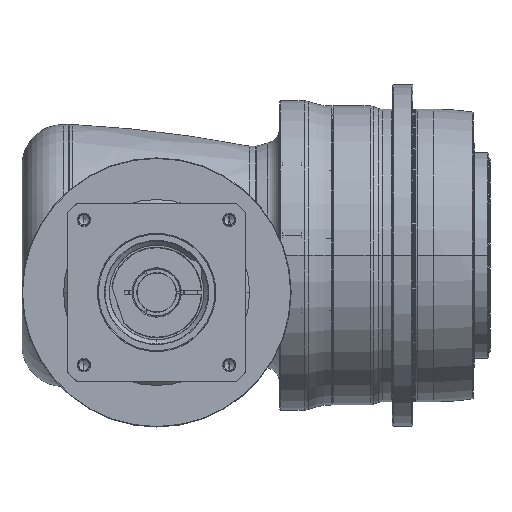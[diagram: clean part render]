
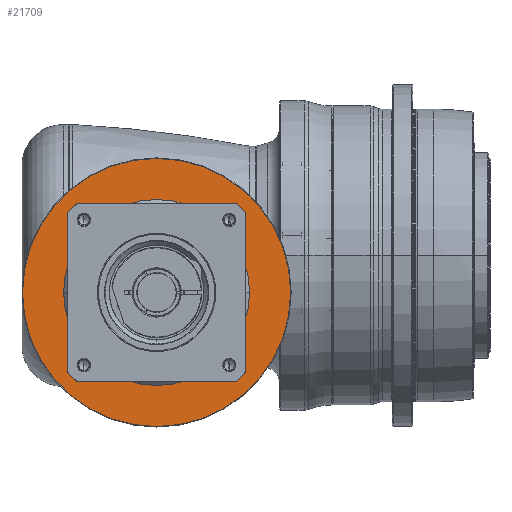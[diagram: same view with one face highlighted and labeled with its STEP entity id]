
A CAD part, front view. The second image highlights one B-rep face of the part: STEP entity #21709.
In plain terms, the highlighted planar face has unit normal (0, -1, 0) as drawn and (1, 0, 0) by its records, which use the part's own axes.
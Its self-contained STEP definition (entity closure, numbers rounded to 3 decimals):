
#21236=CARTESIAN_POINT('',(-3.5,0.,
0.));
#21237=DIRECTION('',(-1.,0.,0.));
#21238=DIRECTION('',(0.,1.,0.));
#21239=AXIS2_PLACEMENT_3D('',#21236,#21237,#21238);
#21241=CARTESIAN_POINT('',(-3.5,0.,
0.));
#21242=DIRECTION('',(-1.,0.,0.));
#21243=DIRECTION('',(0.,-1.,0.));
#21244=AXIS2_PLACEMENT_3D('',#21241,#21242,#21243);
#21246=CARTESIAN_POINT('',(-3.5,0.,0.));
#21247=DIRECTION('',(-1.,0.,0.));
#21248=DIRECTION('',(0.,-1.,0.));
#21249=AXIS2_PLACEMENT_3D('',#21246,#21247,#21248);
#21251=CARTESIAN_POINT('',(-3.5,0.,0.));
#21252=DIRECTION('',(-1.,0.,0.));
#21253=DIRECTION('',(0.,1.,0.));
#21254=AXIS2_PLACEMENT_3D('',#21251,#21252,#21253);
#21280=CARTESIAN_POINT('',(-3.5,-130.5,0.));
#21281=CARTESIAN_POINT('',(-3.5,130.5,0.));
#21282=VERTEX_POINT('',#21280);
#21283=VERTEX_POINT('',#21281);
#21328=CARTESIAN_POINT('',(-3.5,90.5,
0.));
#21329=CARTESIAN_POINT('',(-3.5,-90.5,
0.));
#21330=VERTEX_POINT('',#21328);
#21331=VERTEX_POINT('',#21329);
#21694=CARTESIAN_POINT('',(-3.5,0.,0.));
#21695=DIRECTION('',(1.,0.,0.));
#21696=DIRECTION('',(0.,-1.,0.));
#21697=AXIS2_PLACEMENT_3D('',#21694,#21695,#21696);
#21698=PLANE('',#21697);
#21699=ORIENTED_EDGE('',*,*,#21635,.T.);
#21700=ORIENTED_EDGE('',*,*,#21650,.T.);
#21701=EDGE_LOOP('',(#21699,#21700));
#21702=FACE_OUTER_BOUND('',#21701,.F.);
#21704=ORIENTED_EDGE('',*,*,#21703,.F.);
#21706=ORIENTED_EDGE('',*,*,#21705,.F.);
#21707=EDGE_LOOP('',(#21704,#21706));
#21708=FACE_BOUND('',#21707,.F.);
#21709=ADVANCED_FACE('',(#21702,#21708),#21698,.T.);
#21240=CIRCLE('',#21239,90.5);
#21245=CIRCLE('',#21244,90.5);
#21250=CIRCLE('',#21249,130.5);
#21255=CIRCLE('',#21254,130.5);
#21635=EDGE_CURVE('',#21282,#21283,#21250,.T.);
#21650=EDGE_CURVE('',#21283,#21282,#21255,.T.);
#21703=EDGE_CURVE('',#21330,#21331,#21240,.T.);
#21705=EDGE_CURVE('',#21331,#21330,#21245,.T.);
